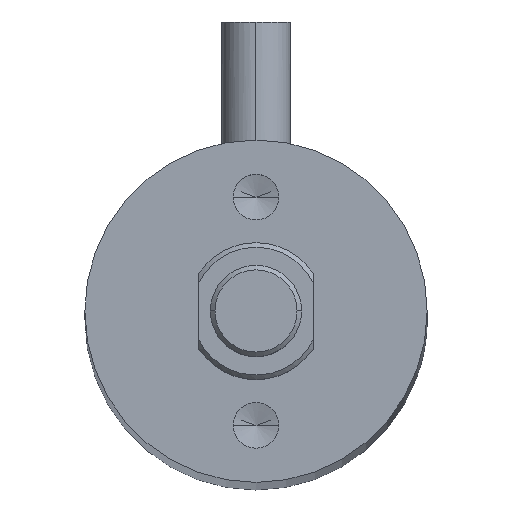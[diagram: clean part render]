
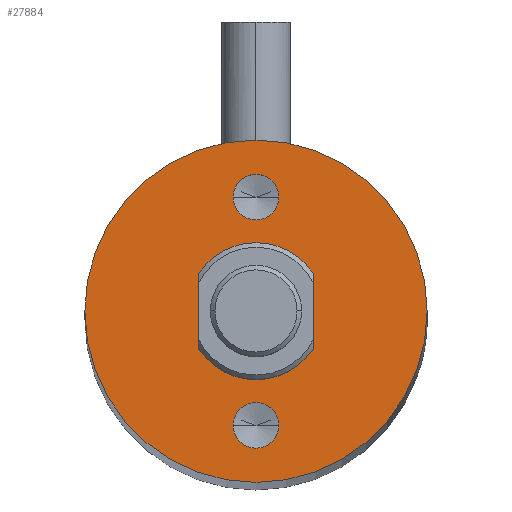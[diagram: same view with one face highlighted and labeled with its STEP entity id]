
A CAD part, top view. The second image highlights one B-rep face of the part: STEP entity #27884.
In plain terms, the highlighted planar face has unit normal (0, 0, 1).
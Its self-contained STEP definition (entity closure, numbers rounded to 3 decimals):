
#466 = CIRCLE ( 'NONE', #7536, 3. ) ;
#1287 = ORIENTED_EDGE ( 'NONE', *, *, #28712, .F. ) ;
#1875 = VERTEX_POINT ( 'NONE', #37625 ) ;
#2174 = EDGE_LOOP ( 'NONE', ( #51996, #1287 ) ) ;
#2964 = DIRECTION ( 'NONE',  ( 1., 0., 0. ) ) ;
#3217 = PLANE ( 'NONE',  #32529 ) ;
#3258 = EDGE_CURVE ( 'NONE', #18140, #11214, #15508, .T. ) ;
#3393 = DIRECTION ( 'NONE',  ( 1., 0., 0. ) ) ;
#3734 = CARTESIAN_POINT ( 'NONE',  ( 2.5, 1.658, 190.6 ) ) ;
#4123 = DIRECTION ( 'NONE',  ( 1., 0., 0. ) ) ;
#5575 = FACE_BOUND ( 'NONE', #13649, .T. ) ;
#6777 = VERTEX_POINT ( 'NONE', #21089 ) ;
#7400 = CIRCLE ( 'NONE', #11373, 3. ) ;
#7536 = AXIS2_PLACEMENT_3D ( 'NONE', #15954, #43946, #19699 ) ;
#7650 = CARTESIAN_POINT ( 'NONE',  ( 0., 0., 190.6 ) ) ;
#8057 = EDGE_CURVE ( 'NONE', #16953, #24092, #10981, .T. ) ;
#8210 = CARTESIAN_POINT ( 'NONE',  ( 0., -5., 190.6 ) ) ;
#9384 = CIRCLE ( 'NONE', #11601, 7.5 ) ;
#10981 = CIRCLE ( 'NONE', #46700, 1. ) ;
#11214 = VERTEX_POINT ( 'NONE', #16709 ) ;
#11373 = AXIS2_PLACEMENT_3D ( 'NONE', #47475, #19348, #39496 ) ;
#11601 = AXIS2_PLACEMENT_3D ( 'NONE', #15377, #19453, #48439 ) ;
#11999 = DIRECTION ( 'NONE',  ( 1., 0., 0. ) ) ;
#13649 = EDGE_LOOP ( 'NONE', ( #46886, #27728 ) ) ;
#13881 = DIRECTION ( 'NONE',  ( 0., 0., 1. ) ) ;
#14367 = CARTESIAN_POINT ( 'NONE',  ( -1., 5., 190.6 ) ) ;
#14517 = FACE_BOUND ( 'NONE', #26284, .T. ) ;
#14662 = ORIENTED_EDGE ( 'NONE', *, *, #51981, .F. ) ;
#15377 = CARTESIAN_POINT ( 'NONE',  ( 0., 0., 190.6 ) ) ;
#15508 = CIRCLE ( 'NONE', #46628, 7.5 ) ;
#15954 = CARTESIAN_POINT ( 'NONE',  ( 0., 0., 190.6 ) ) ;
#16357 = FACE_OUTER_BOUND ( 'NONE', #25377, .T. ) ;
#16570 = LINE ( 'NONE', #27046, #29293 ) ;
#16709 = CARTESIAN_POINT ( 'NONE',  ( 7.5, 0., 190.6 ) ) ;
#16748 = ORIENTED_EDGE ( 'NONE', *, *, #3258, .T. ) ;
#16953 = VERTEX_POINT ( 'NONE', #38545 ) ;
#17122 = ORIENTED_EDGE ( 'NONE', *, *, #47733, .F. ) ;
#17418 = EDGE_CURVE ( 'NONE', #42475, #20885, #24819, .T. ) ;
#17773 = CARTESIAN_POINT ( 'NONE',  ( -2.5, -6.39, 190.6 ) ) ;
#18140 = VERTEX_POINT ( 'NONE', #39785 ) ;
#19135 = CARTESIAN_POINT ( 'NONE',  ( 0., 5., 190.6 ) ) ;
#19348 = DIRECTION ( 'NONE',  ( 0., 0., 1. ) ) ;
#19453 = DIRECTION ( 'NONE',  ( 0., 0., 1. ) ) ;
#19699 = DIRECTION ( 'NONE',  ( 1., 0., 0. ) ) ;
#20885 = VERTEX_POINT ( 'NONE', #35896 ) ;
#21089 = CARTESIAN_POINT ( 'NONE',  ( 1., 5., 190.6 ) ) ;
#21549 = CARTESIAN_POINT ( 'NONE',  ( 1., -5., 190.6 ) ) ;
#21890 = AXIS2_PLACEMENT_3D ( 'NONE', #8210, #28133, #4123 ) ;
#23389 = ORIENTED_EDGE ( 'NONE', *, *, #36384, .T. ) ;
#23592 = CARTESIAN_POINT ( 'NONE',  ( 0., 0., 190.6 ) ) ;
#24092 = VERTEX_POINT ( 'NONE', #21549 ) ;
#24819 = LINE ( 'NONE', #17773, #42081 ) ;
#25377 = EDGE_LOOP ( 'NONE', ( #16748, #49694 ) ) ;
#26284 = EDGE_LOOP ( 'NONE', ( #23389, #17122, #29654, #14662 ) ) ;
#26521 = VERTEX_POINT ( 'NONE', #14367 ) ;
#26908 = VERTEX_POINT ( 'NONE', #3734 ) ;
#27046 = CARTESIAN_POINT ( 'NONE',  ( 2.5, -6.39, 190.6 ) ) ;
#27728 = ORIENTED_EDGE ( 'NONE', *, *, #8057, .F. ) ;
#27884 = ADVANCED_FACE ( 'NONE', ( #14517, #16357, #5575, #45711 ), #3217, .T. ) ;
#28133 = DIRECTION ( 'NONE',  ( 0., 0., 1. ) ) ;
#28712 = EDGE_CURVE ( 'NONE', #26521, #6777, #39344, .T. ) ;
#29293 = VECTOR ( 'NONE', #35253, 1000. ) ;
#29654 = ORIENTED_EDGE ( 'NONE', *, *, #17418, .T. ) ;
#31525 = AXIS2_PLACEMENT_3D ( 'NONE', #19135, #35341, #39458 ) ;
#32529 = AXIS2_PLACEMENT_3D ( 'NONE', #7650, #35789, #3393 ) ;
#35253 = DIRECTION ( 'NONE',  ( 0., -1., 0. ) ) ;
#35341 = DIRECTION ( 'NONE',  ( 0., 0., 1. ) ) ;
#35789 = DIRECTION ( 'NONE',  ( 0., 0., 1. ) ) ;
#35896 = CARTESIAN_POINT ( 'NONE',  ( -2.5, 1.658, 190.6 ) ) ;
#36062 = DIRECTION ( 'NONE',  ( 0., 0., 1. ) ) ;
#36384 = EDGE_CURVE ( 'NONE', #26908, #1875, #16570, .T. ) ;
#36387 = CARTESIAN_POINT ( 'NONE',  ( 0., 5., 190.6 ) ) ;
#36560 = AXIS2_PLACEMENT_3D ( 'NONE', #36387, #44402, #11999 ) ;
#37625 = CARTESIAN_POINT ( 'NONE',  ( 2.5, -1.658, 190.6 ) ) ;
#38545 = CARTESIAN_POINT ( 'NONE',  ( -1., -5., 190.6 ) ) ;
#39344 = CIRCLE ( 'NONE', #31525, 1. ) ;
#39458 = DIRECTION ( 'NONE',  ( 1., 0., 0. ) ) ;
#39496 = DIRECTION ( 'NONE',  ( 1., 0., 0. ) ) ;
#39785 = CARTESIAN_POINT ( 'NONE',  ( -7.5, 0., 190.6 ) ) ;
#40024 = CIRCLE ( 'NONE', #36560, 1. ) ;
#42081 = VECTOR ( 'NONE', #46600, 1000. ) ;
#42176 = CARTESIAN_POINT ( 'NONE',  ( 0., -5., 190.6 ) ) ;
#42475 = VERTEX_POINT ( 'NONE', #46997 ) ;
#43946 = DIRECTION ( 'NONE',  ( 0., 0., 1. ) ) ;
#44402 = DIRECTION ( 'NONE',  ( 0., 0., 1. ) ) ;
#44725 = EDGE_CURVE ( 'NONE', #11214, #18140, #9384, .T. ) ;
#45104 = CIRCLE ( 'NONE', #21890, 1. ) ;
#45711 = FACE_BOUND ( 'NONE', #2174, .T. ) ;
#46130 = EDGE_CURVE ( 'NONE', #24092, #16953, #45104, .T. ) ;
#46600 = DIRECTION ( 'NONE',  ( 0., 1., 0. ) ) ;
#46628 = AXIS2_PLACEMENT_3D ( 'NONE', #23592, #36062, #2964 ) ;
#46700 = AXIS2_PLACEMENT_3D ( 'NONE', #42176, #13881, #49833 ) ;
#46768 = EDGE_CURVE ( 'NONE', #6777, #26521, #40024, .T. ) ;
#46886 = ORIENTED_EDGE ( 'NONE', *, *, #46130, .F. ) ;
#46997 = CARTESIAN_POINT ( 'NONE',  ( -2.5, -1.658, 190.6 ) ) ;
#47475 = CARTESIAN_POINT ( 'NONE',  ( 0., 0., 190.6 ) ) ;
#47733 = EDGE_CURVE ( 'NONE', #42475, #1875, #466, .T. ) ;
#48439 = DIRECTION ( 'NONE',  ( 1., 0., 0. ) ) ;
#49694 = ORIENTED_EDGE ( 'NONE', *, *, #44725, .T. ) ;
#49833 = DIRECTION ( 'NONE',  ( 1., 0., 0. ) ) ;
#51981 = EDGE_CURVE ( 'NONE', #26908, #20885, #7400, .T. ) ;
#51996 = ORIENTED_EDGE ( 'NONE', *, *, #46768, .F. ) ;
